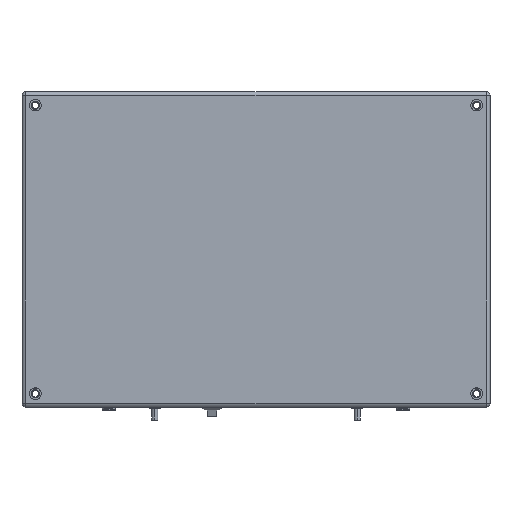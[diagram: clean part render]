
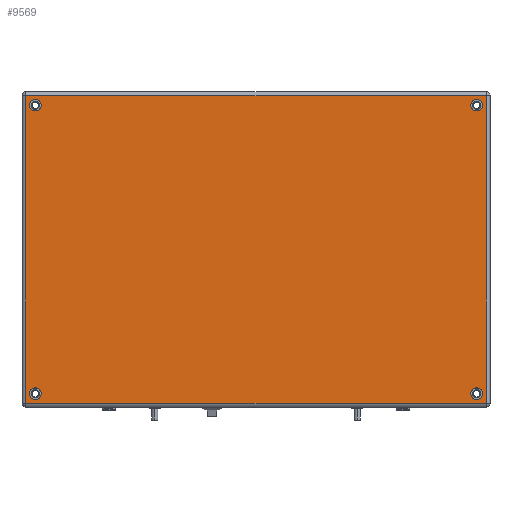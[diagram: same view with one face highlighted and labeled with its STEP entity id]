
A CAD part, top view. The second image highlights one B-rep face of the part: STEP entity #9569.
In plain terms, the highlighted planar face has unit normal (0, 0, 1).
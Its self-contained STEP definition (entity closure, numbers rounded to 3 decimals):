
#191 = DIRECTION ( 'NONE',  ( 0., 0., 1. ) ) ;
#209 = VERTEX_POINT ( 'NONE', #13254 ) ;
#242 = CARTESIAN_POINT ( 'NONE',  ( -5.5, 24.5, 35.8 ) ) ;
#266 = AXIS2_PLACEMENT_3D ( 'NONE', #10832, #191, #2302 ) ;
#374 = ORIENTED_EDGE ( 'NONE', *, *, #5345, .T. ) ;
#1049 = EDGE_CURVE ( 'NONE', #11599, #10142, #11022, .T. ) ;
#1082 = CARTESIAN_POINT ( 'NONE',  ( 225.5, 24.5, 35.8 ) ) ;
#1111 = ORIENTED_EDGE ( 'NONE', *, *, #3021, .F. ) ;
#1420 = PLANE ( 'NONE',  #10151 ) ;
#1466 = VERTEX_POINT ( 'NONE', #9459 ) ;
#1584 = AXIS2_PLACEMENT_3D ( 'NONE', #9804, #4516, #5585 ) ;
#1719 = DIRECTION ( 'NONE',  ( 1., 0., 0. ) ) ;
#1952 = DIRECTION ( 'NONE',  ( 1., 0., 0. ) ) ;
#1998 = VERTEX_POINT ( 'NONE', #13494 ) ;
#2025 = EDGE_LOOP ( 'NONE', ( #6239, #10886 ) ) ;
#2070 = CARTESIAN_POINT ( 'NONE',  ( 222.5, 175.5, 35.8 ) ) ;
#2084 = VERTEX_POINT ( 'NONE', #4124 ) ;
#2094 = EDGE_CURVE ( 'NONE', #209, #3632, #4937, .T. ) ;
#2249 = ORIENTED_EDGE ( 'NONE', *, *, #13169, .F. ) ;
#2265 = DIRECTION ( 'NONE',  ( 0., 0., 1. ) ) ;
#2302 = DIRECTION ( 'NONE',  ( 1., 0., 0. ) ) ;
#2408 = DIRECTION ( 'NONE',  ( 0., 0., 1. ) ) ;
#2589 = VERTEX_POINT ( 'NONE', #2070 ) ;
#3021 = EDGE_CURVE ( 'NONE', #2589, #7708, #6697, .T. ) ;
#3199 = CARTESIAN_POINT ( 'NONE',  ( -5.5, 175.5, 35.8 ) ) ;
#3221 = DIRECTION ( 'NONE',  ( 0., 0., 1. ) ) ;
#3273 = VECTOR ( 'NONE', #7691, 1000. ) ;
#3452 = EDGE_LOOP ( 'NONE', ( #6547, #12282 ) ) ;
#3512 = DIRECTION ( 'NONE',  ( 1., 0., 0. ) ) ;
#3532 = EDGE_CURVE ( 'NONE', #1466, #209, #11506, .T. ) ;
#3632 = VERTEX_POINT ( 'NONE', #10789 ) ;
#3643 = CIRCLE ( 'NONE', #266, 3. ) ;
#4124 = CARTESIAN_POINT ( 'NONE',  ( -8.5, 24.5, 35.8 ) ) ;
#4171 = DIRECTION ( 'NONE',  ( 1., 0., 0. ) ) ;
#4486 = DIRECTION ( 'NONE',  ( 1., 0., 0. ) ) ;
#4516 = DIRECTION ( 'NONE',  ( 0., 0., 1. ) ) ;
#4593 = EDGE_LOOP ( 'NONE', ( #12681, #2249 ) ) ;
#4937 = LINE ( 'NONE', #9640, #5775 ) ;
#5085 = EDGE_CURVE ( 'NONE', #7708, #2589, #3643, .T. ) ;
#5345 = EDGE_CURVE ( 'NONE', #3632, #7986, #11769, .T. ) ;
#5426 = DIRECTION ( 'NONE',  ( 0., 0., 1. ) ) ;
#5445 = DIRECTION ( 'NONE',  ( 0., 0., 1. ) ) ;
#5585 = DIRECTION ( 'NONE',  ( 1., 0., 0. ) ) ;
#5775 = VECTOR ( 'NONE', #10887, 1000. ) ;
#6019 = CIRCLE ( 'NONE', #1584, 3. ) ;
#6191 = AXIS2_PLACEMENT_3D ( 'NONE', #3199, #5445, #12899 ) ;
#6239 = ORIENTED_EDGE ( 'NONE', *, *, #9522, .F. ) ;
#6397 = CIRCLE ( 'NONE', #11344, 3. ) ;
#6547 = ORIENTED_EDGE ( 'NONE', *, *, #1049, .F. ) ;
#6657 = FACE_BOUND ( 'NONE', #4593, .T. ) ;
#6697 = CIRCLE ( 'NONE', #6736, 3. ) ;
#6722 = DIRECTION ( 'NONE',  ( 0., 0., -1. ) ) ;
#6736 = AXIS2_PLACEMENT_3D ( 'NONE', #10710, #5426, #4171 ) ;
#6982 = CARTESIAN_POINT ( 'NONE',  ( -5.5, 175.5, 35.8 ) ) ;
#7169 = FACE_OUTER_BOUND ( 'NONE', #7792, .T. ) ;
#7442 = LINE ( 'NONE', #7641, #3273 ) ;
#7641 = CARTESIAN_POINT ( 'NONE',  ( 110., 19.5, 35.8 ) ) ;
#7677 = VECTOR ( 'NONE', #9314, 1000. ) ;
#7691 = DIRECTION ( 'NONE',  ( 1., 0., 0. ) ) ;
#7708 = VERTEX_POINT ( 'NONE', #11586 ) ;
#7792 = EDGE_LOOP ( 'NONE', ( #11765, #8142, #9299, #374 ) ) ;
#7820 = DIRECTION ( 'NONE',  ( -1., 0., 0. ) ) ;
#7976 = ORIENTED_EDGE ( 'NONE', *, *, #5085, .F. ) ;
#7984 = AXIS2_PLACEMENT_3D ( 'NONE', #1082, #3221, #1952 ) ;
#7986 = VERTEX_POINT ( 'NONE', #9862 ) ;
#8142 = ORIENTED_EDGE ( 'NONE', *, *, #3532, .T. ) ;
#8490 = VERTEX_POINT ( 'NONE', #11722 ) ;
#8498 = FACE_BOUND ( 'NONE', #3452, .T. ) ;
#9129 = DIRECTION ( 'NONE',  ( 0., 0., 1. ) ) ;
#9299 = ORIENTED_EDGE ( 'NONE', *, *, #2094, .T. ) ;
#9314 = DIRECTION ( 'NONE',  ( 0., 1., 0. ) ) ;
#9427 = CARTESIAN_POINT ( 'NONE',  ( -8.5, 175.5, 35.8 ) ) ;
#9459 = CARTESIAN_POINT ( 'NONE',  ( 230.5, 19.5, 35.8 ) ) ;
#9522 = EDGE_CURVE ( 'NONE', #13104, #2084, #6019, .T. ) ;
#9569 = ADVANCED_FACE ( 'NONE', ( #7169, #10326, #6657, #11337, #8498 ), #1420, .F. ) ;
#9640 = CARTESIAN_POINT ( 'NONE',  ( 110., 180.5, 35.8 ) ) ;
#9804 = CARTESIAN_POINT ( 'NONE',  ( -5.5, 24.5, 35.8 ) ) ;
#9862 = CARTESIAN_POINT ( 'NONE',  ( -10.5, 19.5, 35.8 ) ) ;
#9865 = CARTESIAN_POINT ( 'NONE',  ( 225.5, 24.5, 35.8 ) ) ;
#10142 = VERTEX_POINT ( 'NONE', #9427 ) ;
#10151 = AXIS2_PLACEMENT_3D ( 'NONE', #11155, #6722, #7820 ) ;
#10307 = CARTESIAN_POINT ( 'NONE',  ( -2.5, 24.5, 35.8 ) ) ;
#10322 = CARTESIAN_POINT ( 'NONE',  ( -10.5, 100., 35.8 ) ) ;
#10326 = FACE_BOUND ( 'NONE', #2025, .T. ) ;
#10710 = CARTESIAN_POINT ( 'NONE',  ( 225.5, 175.5, 35.8 ) ) ;
#10789 = CARTESIAN_POINT ( 'NONE',  ( -10.5, 180.5, 35.8 ) ) ;
#10832 = CARTESIAN_POINT ( 'NONE',  ( 225.5, 175.5, 35.8 ) ) ;
#10886 = ORIENTED_EDGE ( 'NONE', *, *, #11471, .F. ) ;
#10887 = DIRECTION ( 'NONE',  ( -1., 0., 0. ) ) ;
#11022 = CIRCLE ( 'NONE', #6191, 3. ) ;
#11155 = CARTESIAN_POINT ( 'NONE',  ( 110., 100., 35.8 ) ) ;
#11208 = CIRCLE ( 'NONE', #7984, 3. ) ;
#11232 = CIRCLE ( 'NONE', #13137, 3. ) ;
#11337 = FACE_BOUND ( 'NONE', #11460, .T. ) ;
#11344 = AXIS2_PLACEMENT_3D ( 'NONE', #9865, #2408, #3512 ) ;
#11460 = EDGE_LOOP ( 'NONE', ( #7976, #1111 ) ) ;
#11471 = EDGE_CURVE ( 'NONE', #2084, #13104, #11232, .T. ) ;
#11506 = LINE ( 'NONE', #13581, #7677 ) ;
#11564 = EDGE_CURVE ( 'NONE', #8490, #1998, #6397, .T. ) ;
#11586 = CARTESIAN_POINT ( 'NONE',  ( 228.5, 175.5, 35.8 ) ) ;
#11589 = AXIS2_PLACEMENT_3D ( 'NONE', #6982, #9129, #1719 ) ;
#11599 = VERTEX_POINT ( 'NONE', #11988 ) ;
#11672 = EDGE_CURVE ( 'NONE', #10142, #11599, #13415, .T. ) ;
#11722 = CARTESIAN_POINT ( 'NONE',  ( 228.5, 24.5, 35.8 ) ) ;
#11765 = ORIENTED_EDGE ( 'NONE', *, *, #13292, .T. ) ;
#11769 = LINE ( 'NONE', #10322, #12638 ) ;
#11988 = CARTESIAN_POINT ( 'NONE',  ( -2.5, 175.5, 35.8 ) ) ;
#12282 = ORIENTED_EDGE ( 'NONE', *, *, #11672, .F. ) ;
#12501 = DIRECTION ( 'NONE',  ( 0., -1., 0. ) ) ;
#12638 = VECTOR ( 'NONE', #12501, 1000. ) ;
#12681 = ORIENTED_EDGE ( 'NONE', *, *, #11564, .F. ) ;
#12899 = DIRECTION ( 'NONE',  ( 1., 0., 0. ) ) ;
#13104 = VERTEX_POINT ( 'NONE', #10307 ) ;
#13137 = AXIS2_PLACEMENT_3D ( 'NONE', #242, #2265, #4486 ) ;
#13169 = EDGE_CURVE ( 'NONE', #1998, #8490, #11208, .T. ) ;
#13254 = CARTESIAN_POINT ( 'NONE',  ( 230.5, 180.5, 35.8 ) ) ;
#13292 = EDGE_CURVE ( 'NONE', #7986, #1466, #7442, .T. ) ;
#13415 = CIRCLE ( 'NONE', #11589, 3. ) ;
#13494 = CARTESIAN_POINT ( 'NONE',  ( 222.5, 24.5, 35.8 ) ) ;
#13581 = CARTESIAN_POINT ( 'NONE',  ( 230.5, 100., 35.8 ) ) ;
